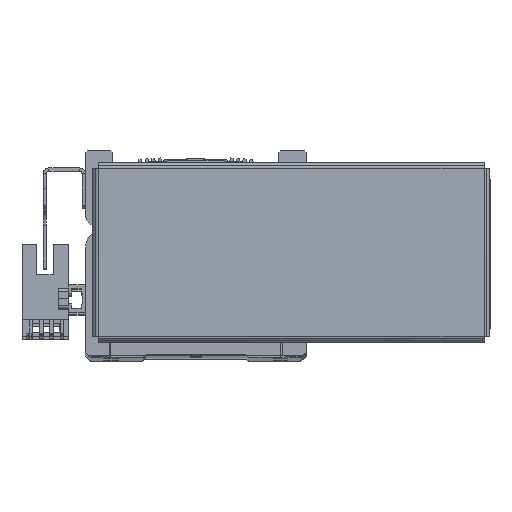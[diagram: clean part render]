
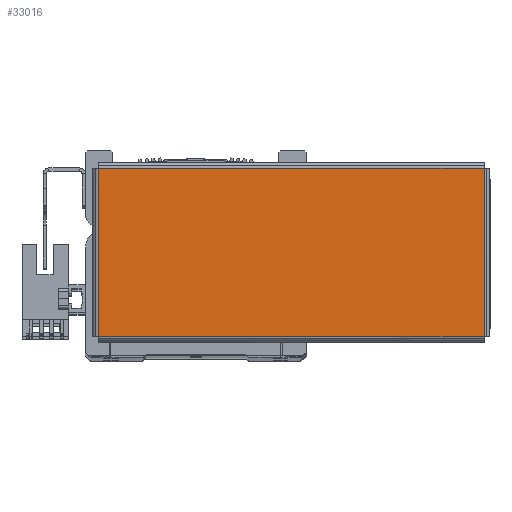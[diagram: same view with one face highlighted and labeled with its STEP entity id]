
A CAD part, top view. The second image highlights one B-rep face of the part: STEP entity #33016.
In plain terms, the highlighted planar face has unit normal (0, 0, 1) as drawn and (0, 0, -1) by its records, which use the part's own axes.
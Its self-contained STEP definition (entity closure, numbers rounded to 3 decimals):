
#3324 = DIRECTION ( 'NONE',  ( 0., 0., 1. ) ) ;
#3327 = PLANE ( 'NONE',  #24539 ) ;
#3359 = DIRECTION ( 'NONE',  ( 1., 0., 0. ) ) ;
#3399 = CARTESIAN_POINT ( 'NONE',  ( 0., 0., -1. ) ) ;
#4406 = CARTESIAN_POINT ( 'NONE',  ( -56.863, -24.763, -1. ) ) ;
#4419 = CARTESIAN_POINT ( 'NONE',  ( -56.863, 24.763, -1. ) ) ;
#4444 = CARTESIAN_POINT ( 'NONE',  ( 56.863, -24.763, -1. ) ) ;
#4537 = CARTESIAN_POINT ( 'NONE',  ( 56.863, 24.763, -1. ) ) ;
#6656 = FACE_OUTER_BOUND ( 'NONE', #32400, .T. ) ;
#18072 = CARTESIAN_POINT ( 'NONE',  ( -56.893, 24.763, -1. ) ) ;
#18096 = DIRECTION ( 'NONE',  ( 1., 0., 0. ) ) ;
#18177 = CARTESIAN_POINT ( 'NONE',  ( 56.893, -24.763, -1. ) ) ;
#18185 = DIRECTION ( 'NONE',  ( -1., 0., 0. ) ) ;
#18220 = DIRECTION ( 'NONE',  ( 0., -1., 0. ) ) ;
#18231 = DIRECTION ( 'NONE',  ( 0., 1., 0. ) ) ;
#18242 = CARTESIAN_POINT ( 'NONE',  ( 56.863, 24.793, -1. ) ) ;
#18243 = CARTESIAN_POINT ( 'NONE',  ( -56.863, -24.793, -1. ) ) ;
#24539 = AXIS2_PLACEMENT_3D ( 'NONE', #3399, #3324, #3359 ) ;
#25762 = VECTOR ( 'NONE', #18185, 1000. ) ;
#25772 = LINE ( 'NONE', #18177, #25762 ) ;
#25845 = LINE ( 'NONE', #18072, #25851 ) ;
#25851 = VECTOR ( 'NONE', #18096, 1000. ) ;
#25894 = LINE ( 'NONE', #18243, #25899 ) ;
#25899 = VECTOR ( 'NONE', #18231, 1000. ) ;
#25931 = LINE ( 'NONE', #18242, #25982 ) ;
#25982 = VECTOR ( 'NONE', #18220, 1000. ) ;
#30370 = EDGE_CURVE ( 'NONE', #33699, #33740, #25845, .T. ) ;
#30390 = EDGE_CURVE ( 'NONE', #33645, #33673, #25772, .T. ) ;
#30407 = EDGE_CURVE ( 'NONE', #33673, #33699, #25894, .T. ) ;
#30408 = EDGE_CURVE ( 'NONE', #33740, #33645, #25931, .T. ) ;
#32400 = EDGE_LOOP ( 'NONE', ( #34585, #34566, #35720, #34571 ) ) ;
#33016 = ADVANCED_FACE ( 'NONE', ( #6656 ), #3327, .F. ) ;
#33645 = VERTEX_POINT ( 'NONE', #4444 ) ;
#33673 = VERTEX_POINT ( 'NONE', #4406 ) ;
#33699 = VERTEX_POINT ( 'NONE', #4419 ) ;
#33740 = VERTEX_POINT ( 'NONE', #4537 ) ;
#34566 = ORIENTED_EDGE ( 'NONE', *, *, #30390, .T. ) ;
#34571 = ORIENTED_EDGE ( 'NONE', *, *, #30370, .T. ) ;
#34585 = ORIENTED_EDGE ( 'NONE', *, *, #30408, .T. ) ;
#35720 = ORIENTED_EDGE ( 'NONE', *, *, #30407, .T. ) ;
